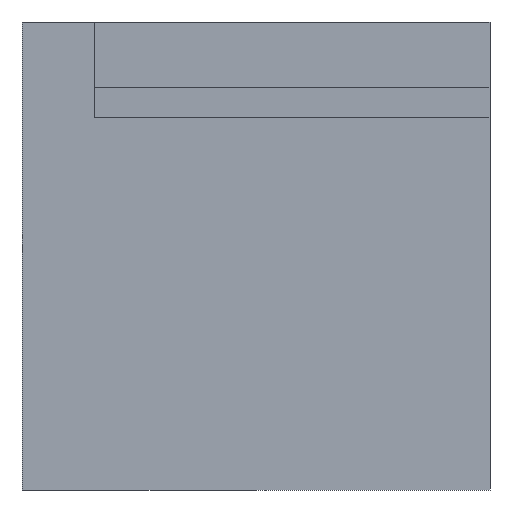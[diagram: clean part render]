
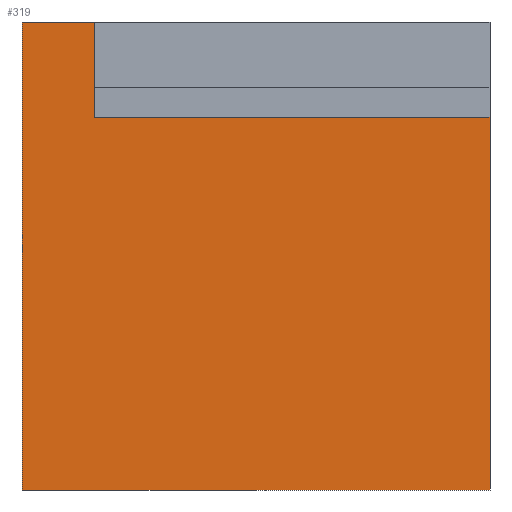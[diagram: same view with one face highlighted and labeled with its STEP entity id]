
A CAD part, left-side view. The second image highlights one B-rep face of the part: STEP entity #319.
In plain terms, the highlighted planar face has unit normal (-1, 0, 0).
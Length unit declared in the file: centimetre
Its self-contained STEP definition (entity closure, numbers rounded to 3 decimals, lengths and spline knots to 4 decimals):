
#5 = PLANE ( 'NONE',  #437 ) ;
#7 = DIRECTION ( 'NONE',  ( 1., 0., 0. ) ) ;
#11 = FACE_OUTER_BOUND ( 'NONE', #305, .T. ) ;
#27 = EDGE_CURVE ( 'NONE', #469, #216, #318, .T. ) ;
#28 = CARTESIAN_POINT ( 'NONE',  ( 0., 844.746, 1000. ) ) ;
#32 = CARTESIAN_POINT ( 'NONE',  ( 0., 0., 0. ) ) ;
#48 = EDGE_CURVE ( 'NONE', #109, #216, #471, .T. ) ;
#50 = CARTESIAN_POINT ( 'NONE',  ( 0., 1000., 1000. ) ) ;
#52 = LINE ( 'NONE', #201, #154 ) ;
#56 = VECTOR ( 'NONE', #246, 100. ) ;
#61 = ORIENTED_EDGE ( 'NONE', *, *, #27, .T. ) ;
#68 = EDGE_CURVE ( 'NONE', #444, #72, #128, .T. ) ;
#72 = VERTEX_POINT ( 'NONE', #28 ) ;
#85 = EDGE_CURVE ( 'NONE', #253, #109, #123, .T. ) ;
#92 = DIRECTION ( 'NONE',  ( 0., 0., -1. ) ) ;
#98 = CARTESIAN_POINT ( 'NONE',  ( 0., 1000., 1000. ) ) ;
#109 = VERTEX_POINT ( 'NONE', #317 ) ;
#120 = VECTOR ( 'NONE', #92, 100. ) ;
#121 = DIRECTION ( 'NONE',  ( 0., 0., -1. ) ) ;
#123 = LINE ( 'NONE', #152, #161 ) ;
#128 = LINE ( 'NONE', #50, #355 ) ;
#152 = CARTESIAN_POINT ( 'NONE',  ( 0., 0., 796.1004 ) ) ;
#154 = VECTOR ( 'NONE', #121, 100. ) ;
#161 = VECTOR ( 'NONE', #277, 100. ) ;
#165 = ORIENTED_EDGE ( 'NONE', *, *, #68, .F. ) ;
#171 = EDGE_CURVE ( 'NONE', #253, #72, #301, .T. ) ;
#174 = CARTESIAN_POINT ( 'NONE',  ( 0., 0., 1000. ) ) ;
#181 = CARTESIAN_POINT ( 'NONE',  ( 0., 844.746, 796.1004 ) ) ;
#201 = CARTESIAN_POINT ( 'NONE',  ( 0., 1000., 1000. ) ) ;
#216 = VERTEX_POINT ( 'NONE', #32 ) ;
#218 = VECTOR ( 'NONE', #371, 100. ) ;
#246 = DIRECTION ( 'NONE',  ( 0., -1., 0. ) ) ;
#252 = CARTESIAN_POINT ( 'NONE',  ( 0., 1000., 0. ) ) ;
#253 = VERTEX_POINT ( 'NONE', #181 ) ;
#266 = ORIENTED_EDGE ( 'NONE', *, *, #171, .T. ) ;
#275 = DIRECTION ( 'NONE',  ( 0., 0., -1. ) ) ;
#277 = DIRECTION ( 'NONE',  ( 0., -1., 0. ) ) ;
#286 = DIRECTION ( 'NONE',  ( 0., -1., 0. ) ) ;
#301 = LINE ( 'NONE', #415, #218 ) ;
#305 = EDGE_LOOP ( 'NONE', ( #352, #266, #165, #493, #61, #347 ) ) ;
#317 = CARTESIAN_POINT ( 'NONE',  ( 0., 0., 796.1004 ) ) ;
#318 = LINE ( 'NONE', #323, #56 ) ;
#319 = ADVANCED_FACE ( 'NONE', ( #11 ), #5, .F. ) ;
#323 = CARTESIAN_POINT ( 'NONE',  ( 0., 1000., 0. ) ) ;
#347 = ORIENTED_EDGE ( 'NONE', *, *, #48, .F. ) ;
#352 = ORIENTED_EDGE ( 'NONE', *, *, #85, .F. ) ;
#355 = VECTOR ( 'NONE', #286, 100. ) ;
#363 = EDGE_CURVE ( 'NONE', #444, #469, #52, .T. ) ;
#371 = DIRECTION ( 'NONE',  ( 0., 0., 1. ) ) ;
#415 = CARTESIAN_POINT ( 'NONE',  ( 0., 844.746, 796.1004 ) ) ;
#430 = CARTESIAN_POINT ( 'NONE',  ( 0., 1000., 1000. ) ) ;
#437 = AXIS2_PLACEMENT_3D ( 'NONE', #430, #7, #275 ) ;
#444 = VERTEX_POINT ( 'NONE', #98 ) ;
#469 = VERTEX_POINT ( 'NONE', #252 ) ;
#471 = LINE ( 'NONE', #174, #120 ) ;
#493 = ORIENTED_EDGE ( 'NONE', *, *, #363, .T. ) ;
